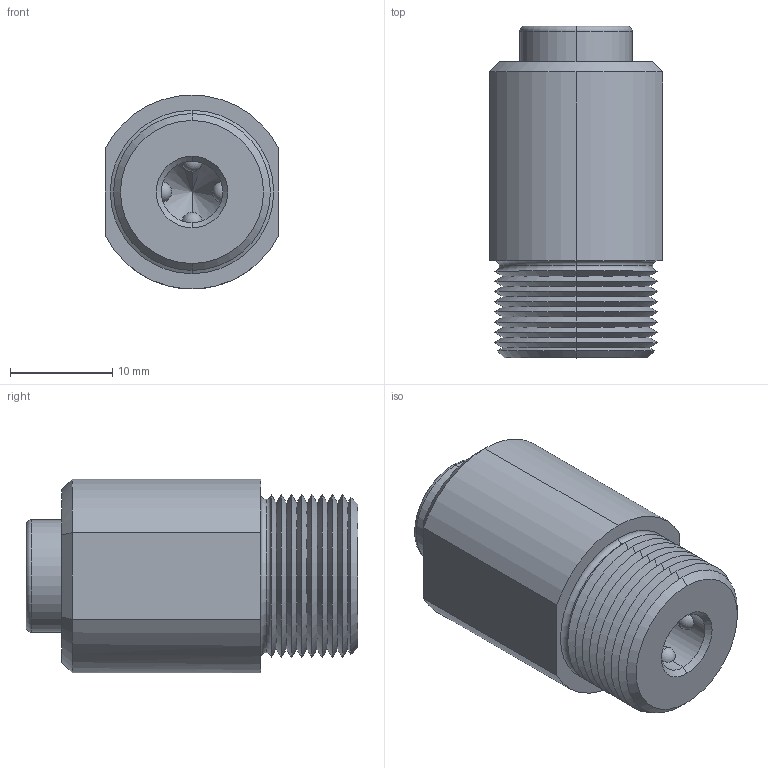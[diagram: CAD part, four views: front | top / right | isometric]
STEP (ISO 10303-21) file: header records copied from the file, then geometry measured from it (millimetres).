
FILE_DESCRIPTION (( 'STEP AP203' ), '1' );
FILE_NAME ('Default.step', '2019-11-18T21:14:50', ( '' ), ( '' ), 'SwSTEP 2.0', 'SolidWorks 2017', '' );
FILE_SCHEMA (( 'CONFIG_CONTROL_DESIGN' ));
Length unit declared in the file: millimetre
Products named in the file (1): Default
Bounding box: 17 x 32.5 x 19 mm (x, y, z)
Volume: 7097.7 mm3; surface area: 2736.1 mm2
Topology: 1 solids, 1 shells, 70 faces, 162 edges, 89 vertices
Faces by surface type: cone 41, sphere 8, plane 8, cylinder 7, torus 6
Entity records: 2057 total; most frequent: CARTESIAN_POINT 456, DIRECTION 350, ORIENTED_EDGE 296, EDGE_CURVE 148, AXIS2_PLACEMENT_3D 147, VERTEX_POINT 85, CIRCLE 76, EDGE_LOOP 75
